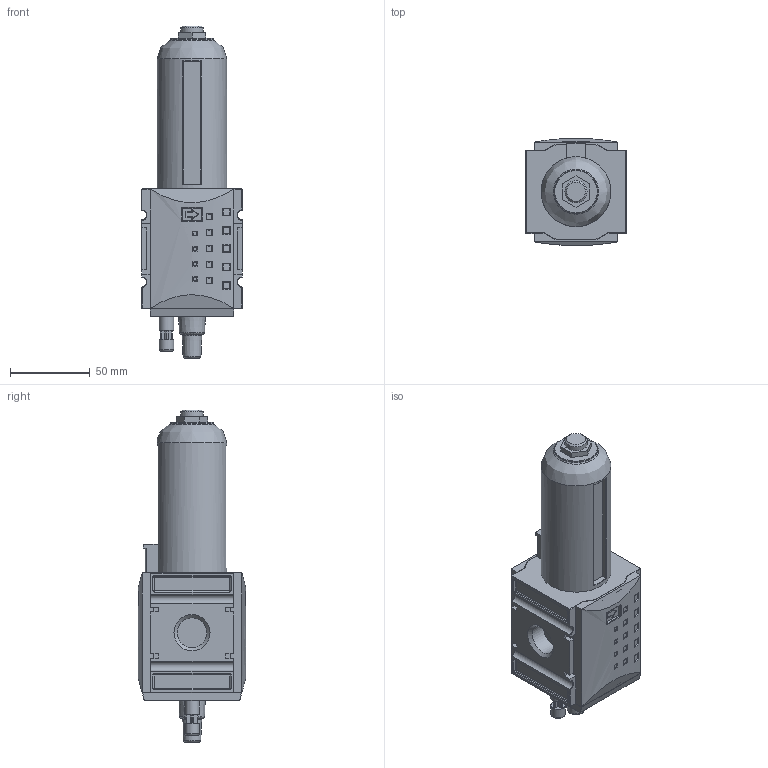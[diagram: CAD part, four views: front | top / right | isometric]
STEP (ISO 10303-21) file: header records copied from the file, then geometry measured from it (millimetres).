
FILE_DESCRIPTION((''),'2;1');
FILE_NAME('K:\ZEICHNG\Kunden Modelle\Airtec Schweden\BG2\KLUB-212.stp','2010-02-01T15:07:04',('DDruske'),(''),'Autodesk Inventor 2009','Autodesk Inventor 2009','');
FILE_SCHEMA(('AUTOMOTIVE_DESIGN { 1 0 10303 214 1 1 1 1 }'));
Length unit declared in the file: millimetre
Products named in the file (1): Bauteil6
Bounding box: 63 x 67.13 x 208.1 mm (x, y, z)
Volume: 401385.8 mm3; surface area: 65464.9 mm2
Topology: 1 solids, 3 shells, 927 faces, 2462 edges, 1523 vertices
Faces by surface type: bspline 341, plane 273, cylinder 224, torus 63, cone 14, sphere 12
Full cylindrical faces by diameter (mm): 6.3 x1, 9 x2, 11.245 x1, 11.445 x1, 14 x1, 18.631 x1, 19 x2, 27 x1, 43.8 x1
Entity records: 35833 total; most frequent: CARTESIAN_POINT 13457, ORIENTED_EDGE 4788, DIRECTION 3926, EDGE_CURVE 2394, VERTEX_POINT 1517, VECTOR 1476, LINE 1476, AXIS2_PLACEMENT_3D 1225
